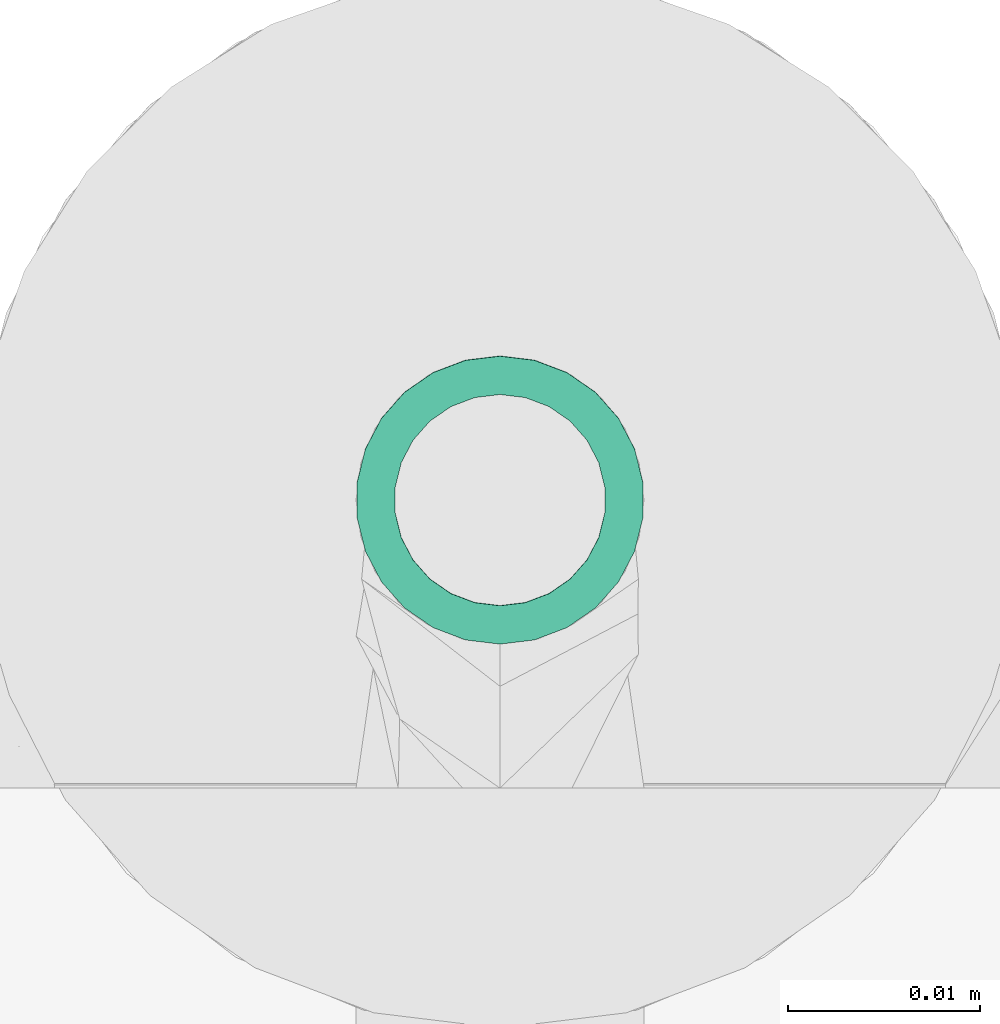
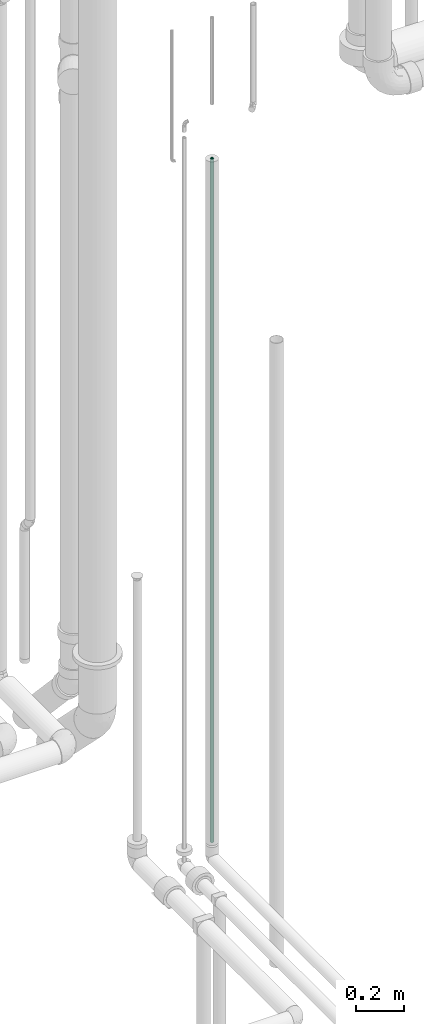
# One storey, part 20 of 78: 1 flow segment.
"""IFC2X3 building model written with IfcOpenShell, lengths in millimetres."""

from ifc_helpers import new_model, entity, si_unit, converted_unit, derived_unit, direction, frame, origin_with_axes, origin_2d_with_axis, place, context, subcontext, project, spatial, hollow_circle, extrude, source, transform, mapped, type_object, element, save


model = new_model("IFC2X3")

# Units and contexts
model_context = context("Model", 3, precision=0.01, world=frame((0.0, 4.29681676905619e-09, 0.0)), true_north=direction((4.01073788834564e-13, 1.0)))
plan_context = context("Plan", 3, precision=0.01, world=frame((0.0, 4.29681676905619e-09, 0.0)), true_north=direction((4.01073788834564e-13, 1.0)))
body_context = subcontext(model_context, "Body", "Model", "MODEL_VIEW")
ifc_project = project(units=[converted_unit("PLANEANGLEUNIT", "DEGREE", entity("IfcPositiveLengthMeasure", 0.0174532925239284), si_unit("PLANEANGLEUNIT", "RADIAN"), dimensions=[0, 0, 0, 0, 0, 0, 0]), si_unit("AREAUNIT", "SQUARE_METRE"), si_unit("LENGTHUNIT", "METRE", prefix="MILLI"), si_unit("MASSUNIT", "GRAM", prefix="KILO"), si_unit("POWERUNIT", "WATT"), si_unit("PRESSUREUNIT", "PASCAL"), si_unit("FORCEUNIT", "NEWTON", prefix="KILO"), si_unit("ELECTRICVOLTAGEUNIT", "VOLT"), si_unit("ELECTRICCURRENTUNIT", "AMPERE"), si_unit("THERMODYNAMICTEMPERATUREUNIT", "DEGREE_CELSIUS"), si_unit("TIMEUNIT", "SECOND"), si_unit("VOLUMEUNIT", "CUBIC_METRE"), derived_unit("LINEARVELOCITYUNIT", [(si_unit("LENGTHUNIT", "METRE"), 1), (si_unit("TIMEUNIT", "SECOND"), -1)]), derived_unit("VOLUMETRICFLOWRATEUNIT", [(si_unit("VOLUMEUNIT", "CUBIC_METRE"), 1), (si_unit("TIMEUNIT", "SECOND"), -1)]), derived_unit("THERMALTRANSMITTANCEUNIT", [(si_unit("POWERUNIT", "WATT"), 1), (si_unit("THERMODYNAMICTEMPERATUREUNIT", "KELVIN"), -1), (si_unit("AREAUNIT", "SQUARE_METRE"), -1)]), derived_unit("SOUNDPRESSUREUNIT", [(si_unit("PRESSUREUNIT", "PASCAL"), 1)])], contexts=[model_context, plan_context])

# Site, building, storey
site_placement = place(None, frame((0.0, -4.29681676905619e-09, 0.0), z_axis=(0.0, 0.0, 1.0), x_axis=(1.0, 0.0, 0.0)))
site = spatial("IfcSite", under=ifc_project, at=site_placement, Name="ENGM", CompositionType="ELEMENT")
building_placement = place(site_placement, frame((0.0, 4.29681676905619e-09, 0.0), z_axis=(0.0, 0.0, 1.0), x_axis=(1.0, 0.0, 0.0)))
building = spatial("IfcBuilding", under=site, at=building_placement, Name="TH", CompositionType="ELEMENT")
storey_placement = place(building_placement, frame((0.0, 0.0, 205200.0), z_axis=(0.0, 0.0, 1.0), x_axis=(1.0, 0.0, 0.0)))
storey = spatial("IfcBuildingStorey", under=building, at=storey_placement, Name="Nivå D + 1,2 m", CompositionType="ELEMENT", Elevation=205200.0)

# Flow segment
pipe_segment_type = type_object("IfcPipeSegmentType", Name="Kobberrør", PredefinedType="RIGIDSEGMENT")
shared_shape = source(origin_with_axes(), body_context, "Body", "SweptSolid", [
    extrude(hollow_circle(Radius=7.5, WallThickness=2.0, at=origin_2d_with_axis()), frame((0.0, 0.0, 0.0), z_axis=(1.0, 0.0, 0.0), x_axis=(0.0, 1.0, 0.0)), (0.0, 0.0, 1.0), 3487.9),
])
flow_segment_placement = place(storey_placement, frame((895651.15, 478542.5375, 8015.0), z_axis=(1.0, 0.0, 0.0), x_axis=(0.0, 3.999999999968e-06, -0.999999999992)))
element("IfcFlowSegment", 1, at=flow_segment_placement, inside=storey, type_object=pipe_segment_type, Name="Kobberrør", context=body_context, shape_type="MappedRepresentation", body=[
    mapped(shared_shape, transform((0.0, 0.0, 0.0), scale=1.0)),
])

save(model, "model.ifc")
